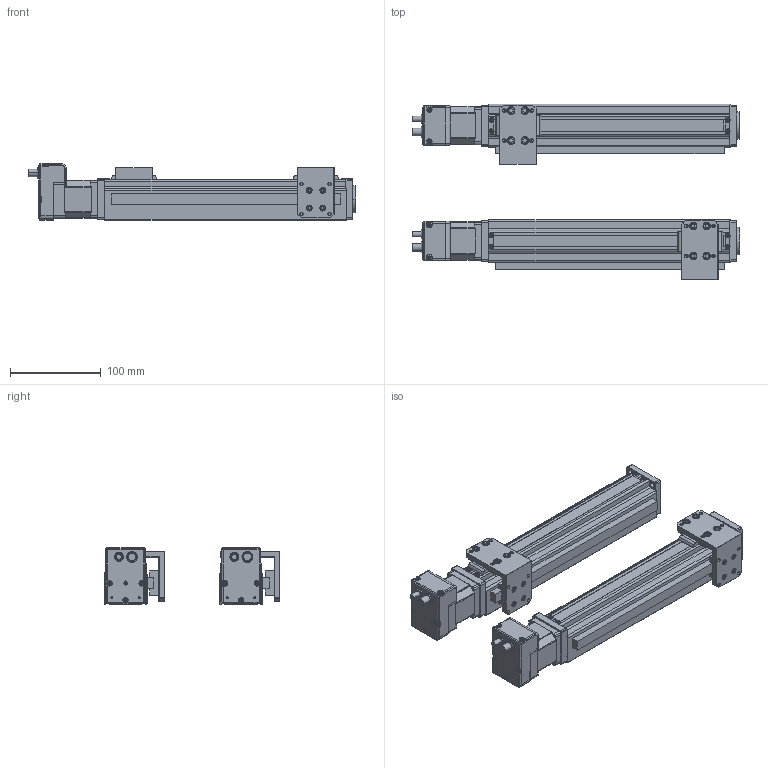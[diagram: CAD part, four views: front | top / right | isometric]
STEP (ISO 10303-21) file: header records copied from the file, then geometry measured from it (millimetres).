
FILE_DESCRIPTION(('STEP AP214'),'1');
FILE_NAME('K:\外形図\3D_DAD2\SCLL5\SCLG5\tmp0.step',' ',(' '),(' '),'XStep 1.0',' ',' ');
FILE_SCHEMA(('automotive_design'));
Length unit declared in the file: millimetre
Bounding box: 360.5 x 192.89 x 62 mm (x, y, z)
Volume: 1362155.4 mm3; surface area: 290900.8 mm2
Topology: 81 solids, 81 shells, 3619 faces, 9240 edges, 5706 vertices
Faces by surface type: cylinder 1654, plane 1339, torus 458, sphere 148, bspline 20
Entity records: 140466 total; most frequent: DIRECTION 20460, CARTESIAN_POINT 19562, ORIENTED_EDGE 18208, EDGE_CURVE 9104, AXIS2_PLACEMENT_3D 7728, VERTEX_POINT 5706, LINE 5004, VECTOR 5004
